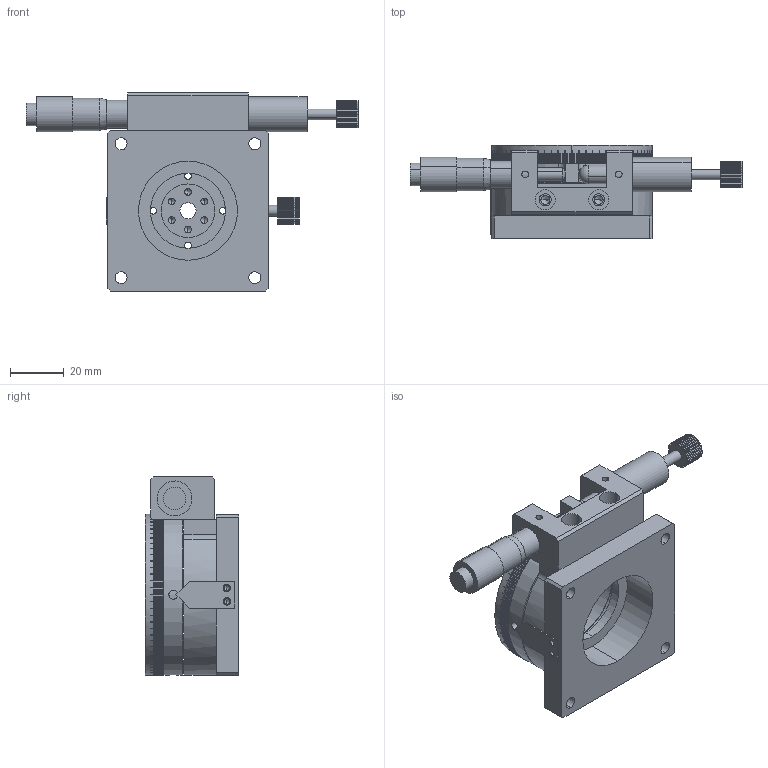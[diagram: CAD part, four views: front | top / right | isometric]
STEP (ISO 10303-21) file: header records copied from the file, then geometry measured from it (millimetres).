
FILE_DESCRIPTION (( 'STEP AP203' ), '1' );
FILE_NAME ('JCRT-60L.STEP', '2022-08-20T02:33:50', ( '微软用户' ), ( '微软中国' ), 'SwSTEP 2.0', 'SolidWorks 2018', '' );
FILE_SCHEMA (( 'CONFIG_CONTROL_DESIGN' ));
Length unit declared in the file: millimetre
Products named in the file (11): JCRT-60.sldasm-Part-7; JCRT-60.sldasm-Part-4; JCRT-60.sldasm-Part-11; JCRT-60.sldasm-Part-6; JCRT-60L; JCRT-60.sldasm-Part-1; JCRT-60.sldasm-Part-12; JCRT-60.sldasm-Part-3; JCRT-60.sldasm-Part-2; JCRT-60.sldasm-Part-10; JCRT-60.sldasm-Part-8
Assembly tree (10 placements, depth 2):
  JCRT-60L
    JCRT-60.sldasm-Part-1
    JCRT-60.sldasm-Part-2
    JCRT-60.sldasm-Part-3
    JCRT-60.sldasm-Part-4
    JCRT-60.sldasm-Part-6
    JCRT-60.sldasm-Part-7
    JCRT-60.sldasm-Part-8
    JCRT-60.sldasm-Part-10
    JCRT-60.sldasm-Part-11
    JCRT-60.sldasm-Part-12
Bounding box: 124 x 35 x 74 mm (x, y, z)
Volume: 96691.2 mm3; surface area: 41592.6 mm2
Topology: 10 solids, 10 shells, 1909 faces, 5611 edges, 3705 vertices
Faces by surface type: plane 1643, cylinder 220, cone 40, sphere 6
Entity records: 64838 total; most frequent: CARTESIAN_POINT 11876, ORIENTED_EDGE 11140, DIRECTION 10543, EDGE_CURVE 5570, VECTOR 4357, LINE 4357, VERTEX_POINT 3702, AXIS2_PLACEMENT_3D 3093
